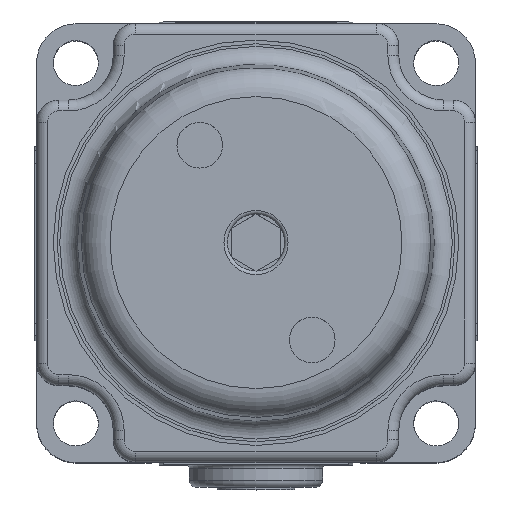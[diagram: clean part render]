
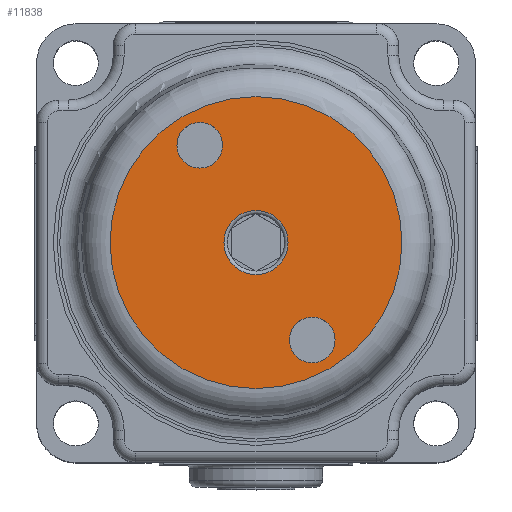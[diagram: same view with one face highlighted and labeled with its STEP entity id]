
A CAD part, top view. The second image highlights one B-rep face of the part: STEP entity #11838.
In plain terms, the highlighted planar face has unit normal (0, 0, 1).
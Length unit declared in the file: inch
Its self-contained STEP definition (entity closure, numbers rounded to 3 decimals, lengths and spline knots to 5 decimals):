
#561=FACE_BOUND('',#2080,.T.);
#562=FACE_BOUND('',#2081,.T.);
#563=FACE_BOUND('',#2082,.T.);
#846=PLANE('',#13019);
#1369=FACE_OUTER_BOUND('',#2079,.T.);
#2079=EDGE_LOOP('',(#9528,#9529));
#2080=EDGE_LOOP('',(#9530,#9531));
#2081=EDGE_LOOP('',(#9532,#9533));
#2082=EDGE_LOOP('',(#9534,#9535));
#2574=CIRCLE('',#13006,0.089);
#2579=CIRCLE('',#13011,0.089);
#2586=CIRCLE('',#13020,0.4051);
#2587=CIRCLE('',#13021,0.4051);
#2588=CIRCLE('',#13022,0.0635);
#2589=CIRCLE('',#13023,0.0635);
#2590=CIRCLE('',#13024,0.0635);
#2591=CIRCLE('',#13025,0.0635);
#5152=VERTEX_POINT('',#20156);
#5153=VERTEX_POINT('',#20157);
#5159=VERTEX_POINT('',#20178);
#5160=VERTEX_POINT('',#20179);
#5161=VERTEX_POINT('',#20182);
#5162=VERTEX_POINT('',#20183);
#5163=VERTEX_POINT('',#20186);
#5164=VERTEX_POINT('',#20187);
#6660=EDGE_CURVE('',#5152,#5153,#2574,.T.);
#6665=EDGE_CURVE('',#5153,#5152,#2579,.T.);
#6673=EDGE_CURVE('',#5159,#5160,#2586,.T.);
#6674=EDGE_CURVE('',#5160,#5159,#2587,.T.);
#6675=EDGE_CURVE('',#5161,#5162,#2588,.T.);
#6676=EDGE_CURVE('',#5162,#5161,#2589,.T.);
#6677=EDGE_CURVE('',#5163,#5164,#2590,.T.);
#6678=EDGE_CURVE('',#5164,#5163,#2591,.T.);
#9528=ORIENTED_EDGE('',*,*,#6673,.T.);
#9529=ORIENTED_EDGE('',*,*,#6674,.T.);
#9530=ORIENTED_EDGE('',*,*,#6675,.T.);
#9531=ORIENTED_EDGE('',*,*,#6676,.T.);
#9532=ORIENTED_EDGE('',*,*,#6677,.T.);
#9533=ORIENTED_EDGE('',*,*,#6678,.T.);
#9534=ORIENTED_EDGE('',*,*,#6660,.F.);
#9535=ORIENTED_EDGE('',*,*,#6665,.F.);
#11838=ADVANCED_FACE('',(#1369,#561,#562,#563),#846,.T.);
#13006=AXIS2_PLACEMENT_3D('',#20158,#15886,#15887);
#13011=AXIS2_PLACEMENT_3D('',#20166,#15896,#15897);
#13019=AXIS2_PLACEMENT_3D('',#20177,#15913,#15914);
#13020=AXIS2_PLACEMENT_3D('',#20180,#15915,#15916);
#13021=AXIS2_PLACEMENT_3D('',#20181,#15917,#15918);
#13022=AXIS2_PLACEMENT_3D('',#20184,#15919,#15920);
#13023=AXIS2_PLACEMENT_3D('',#20185,#15921,#15922);
#13024=AXIS2_PLACEMENT_3D('',#20188,#15923,#15924);
#13025=AXIS2_PLACEMENT_3D('',#20189,#15925,#15926);
#15886=DIRECTION('center_axis',(0.,0.,
1.));
#15887=DIRECTION('ref_axis',(0.5,-0.866,0.));
#15896=DIRECTION('center_axis',(0.,0.,
1.));
#15897=DIRECTION('ref_axis',(0.5,-0.866,0.));
#15913=DIRECTION('center_axis',(0.,0.,1.));
#15914=DIRECTION('ref_axis',(1.,0.,0.));
#15915=DIRECTION('center_axis',(0.,0.,
1.));
#15916=DIRECTION('ref_axis',(-0.5,0.866,0.));
#15917=DIRECTION('center_axis',(0.,0.,
1.));
#15918=DIRECTION('ref_axis',(-0.5,0.866,0.));
#15919=DIRECTION('center_axis',(0.,0.,-1.));
#15920=DIRECTION('ref_axis',(0.414,0.91,0.));
#15921=DIRECTION('center_axis',(0.,0.,-1.));
#15922=DIRECTION('ref_axis',(0.414,0.91,0.));
#15923=DIRECTION('center_axis',(0.,0.,-1.));
#15924=DIRECTION('ref_axis',(0.414,0.91,0.));
#15925=DIRECTION('center_axis',(0.,0.,-1.));
#15926=DIRECTION('ref_axis',(0.414,0.91,0.));
#20156=CARTESIAN_POINT('',(-0.15139,-0.12222,0.96745));
#20157=CARTESIAN_POINT('',(-0.13947,-0.16672,0.96745));
#20158=CARTESIAN_POINT('Origin',(-0.22847,-0.16672,
0.96745));
#20166=CARTESIAN_POINT('Origin',(-0.22847,-0.16672,
0.96745));
#20177=CARTESIAN_POINT('Origin',(-0.57964,-0.36947,
0.96745));
#20178=CARTESIAN_POINT('',(0.12237,0.03584,0.96745));
#20179=CARTESIAN_POINT('',(-0.63357,-0.16672,0.96745));
#20180=CARTESIAN_POINT('Origin',(-0.22847,-0.16672,
0.96745));
#20181=CARTESIAN_POINT('Origin',(-0.22847,-0.16672,
0.96745));
#20182=CARTESIAN_POINT('',(-0.32947,0.13523,0.96745));
#20183=CARTESIAN_POINT('',(-0.43946,0.07173,0.96745));
#20184=CARTESIAN_POINT('Origin',(-0.38447,0.10348,0.96745));
#20185=CARTESIAN_POINT('Origin',(-0.38447,0.10348,0.96745));
#20186=CARTESIAN_POINT('',(-0.01747,-0.40517,0.96745));
#20187=CARTESIAN_POINT('',(-0.12746,-0.46867,0.96745));
#20188=CARTESIAN_POINT('Origin',(-0.07247,-0.43692,
0.96745));
#20189=CARTESIAN_POINT('Origin',(-0.07247,-0.43692,
0.96745));
